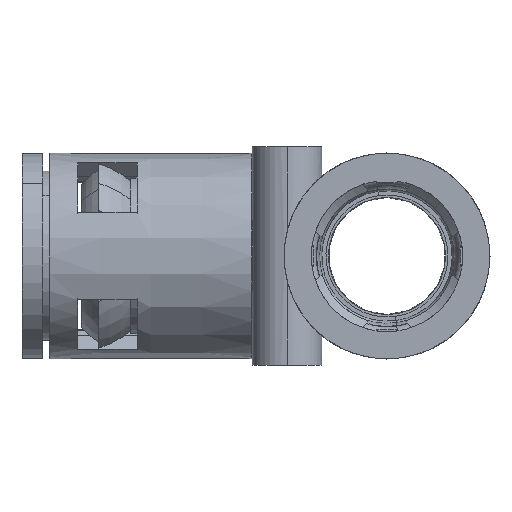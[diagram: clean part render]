
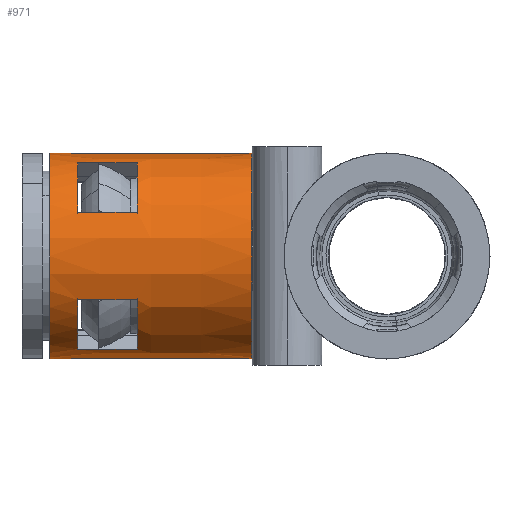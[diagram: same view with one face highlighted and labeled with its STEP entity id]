
A CAD part, left-side view. The second image highlights one B-rep face of the part: STEP entity #971.
In plain terms, the highlighted conical face has half-angle 0.026 degrees and reference radius 14.751 mm.
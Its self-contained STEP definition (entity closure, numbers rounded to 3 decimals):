
#42 = VERTEX_POINT ( 'NONE', #8413 ) ;
#139 = DIRECTION ( 'NONE',  ( 0., 0., 1. ) ) ;
#163 = CARTESIAN_POINT ( 'NONE',  ( -13.355, 38.657, -6.284 ) ) ;
#270 = FACE_BOUND ( 'NONE', #3830, .T. ) ;
#350 = VERTEX_POINT ( 'NONE', #8005 ) ;
#401 = AXIS2_PLACEMENT_3D ( 'NONE', #5531, #695, #6341 ) ;
#466 = CARTESIAN_POINT ( 'NONE',  ( -6.283, 35.824, -13.354 ) ) ;
#538 = EDGE_CURVE ( 'NONE', #350, #2759, #2491, .T. ) ;
#615 = CARTESIAN_POINT ( 'NONE',  ( -13.356, 41.49, -6.285 ) ) ;
#623 = LINE ( 'NONE', #4461, #9001 ) ;
#695 = DIRECTION ( 'NONE',  ( 0., -1., 0. ) ) ;
#820 = CARTESIAN_POINT ( 'NONE',  ( 0., 48.324, -14.764 ) ) ;
#971 = ADVANCED_FACE ( 'NONE', ( #2156, #270, #2406 ), #8137, .T. ) ;
#1041 = AXIS2_PLACEMENT_3D ( 'NONE', #1295, #7910, #6983 ) ;
#1217 = EDGE_CURVE ( 'NONE', #3899, #350, #6233, .T. ) ;
#1295 = CARTESIAN_POINT ( 'NONE',  ( 0., 19.393, 0. ) ) ;
#1344 = AXIS2_PLACEMENT_3D ( 'NONE', #2278, #7958, #3082 ) ;
#1374 = ORIENTED_EDGE ( 'NONE', *, *, #9882, .F. ) ;
#1421 = CARTESIAN_POINT ( 'NONE',  ( 0., 48.324, 14.764 ) ) ;
#1476 = CARTESIAN_POINT ( 'NONE',  ( -13.357, 44.324, 6.286 ) ) ;
#1622 = CARTESIAN_POINT ( 'NONE',  ( -13.357, 44.324, 6.286 ) ) ;
#1827 = CARTESIAN_POINT ( 'NONE',  ( 0., 19.393, 0. ) ) ;
#1838 = VERTEX_POINT ( 'NONE', #10016 ) ;
#1870 = ORIENTED_EDGE ( 'NONE', *, *, #4715, .T. ) ;
#1963 = DIRECTION ( 'NONE',  ( 0., 1., 0. ) ) ;
#2093 = AXIS2_PLACEMENT_3D ( 'NONE', #2124, #7816, #2937 ) ;
#2124 = CARTESIAN_POINT ( 'NONE',  ( 0., 35.824, 0. ) ) ;
#2156 = FACE_OUTER_BOUND ( 'NONE', #6339, .T. ) ;
#2234 = EDGE_CURVE ( 'NONE', #8324, #1838, #7959, .T. ) ;
#2278 = CARTESIAN_POINT ( 'NONE',  ( 0., 44.324, 0. ) ) ;
#2283 = EDGE_CURVE ( 'NONE', #10251, #4035, #623, .T. ) ;
#2294 = VECTOR ( 'NONE', #7677, 1000. ) ;
#2347 = CIRCLE ( 'NONE', #401, 14.764 ) ;
#2349 = DIRECTION ( 'NONE',  ( 0., 1., 0. ) ) ;
#2390 = ORIENTED_EDGE ( 'NONE', *, *, #538, .F. ) ;
#2406 = FACE_BOUND ( 'NONE', #3005, .T. ) ;
#2491 = CIRCLE ( 'NONE', #10324, 14.762 ) ;
#2582 = CARTESIAN_POINT ( 'NONE',  ( -6.286, 44.324, 13.357 ) ) ;
#2629 = DIRECTION ( 'NONE',  ( 0., 0., -1. ) ) ;
#2640 = CARTESIAN_POINT ( 'NONE',  ( -6.283, 35.824, 13.354 ) ) ;
#2759 = VERTEX_POINT ( 'NONE', #9589 ) ;
#2895 = ORIENTED_EDGE ( 'NONE', *, *, #8659, .F. ) ;
#2937 = DIRECTION ( 'NONE',  ( -1., 0., 0. ) ) ;
#3005 = EDGE_LOOP ( 'NONE', ( #5753, #7082, #2390, #6274 ) ) ;
#3082 = DIRECTION ( 'NONE',  ( 1., 0., 0. ) ) ;
#3098 = CARTESIAN_POINT ( 'NONE',  ( -13.354, 35.824, -6.283 ) ) ;
#3196 = CIRCLE ( 'NONE', #6073, 14.751 ) ;
#3247 = CARTESIAN_POINT ( 'NONE',  ( 0., 19.393, -14.751 ) ) ;
#3429 = EDGE_CURVE ( 'NONE', #42, #10251, #3196, .T. ) ;
#3433 = AXIS2_PLACEMENT_3D ( 'NONE', #6814, #1963, #7648 ) ;
#3558 = CARTESIAN_POINT ( 'NONE',  ( -6.285, 41.49, -13.356 ) ) ;
#3830 = EDGE_LOOP ( 'NONE', ( #7664, #6432, #2895, #1374 ) ) ;
#3844 = VERTEX_POINT ( 'NONE', #1421 ) ;
#3899 = VERTEX_POINT ( 'NONE', #3098 ) ;
#4035 = VERTEX_POINT ( 'NONE', #820 ) ;
#4123 = CARTESIAN_POINT ( 'NONE',  ( -6.283, 35.824, 13.354 ) ) ;
#4461 = CARTESIAN_POINT ( 'NONE',  ( 0., 19.393, -14.751 ) ) ;
#4558 = CARTESIAN_POINT ( 'NONE',  ( -13.357, 44.324, -6.286 ) ) ;
#4715 = EDGE_CURVE ( 'NONE', #42, #3844, #9033, .T. ) ;
#4822 = CARTESIAN_POINT ( 'NONE',  ( -13.356, 41.49, 6.285 ) ) ;
#5202 = CARTESIAN_POINT ( 'NONE',  ( -6.286, 44.324, -13.357 ) ) ;
#5235 = CARTESIAN_POINT ( 'NONE',  ( -6.283, 35.824, -13.354 ) ) ;
#5380 = CARTESIAN_POINT ( 'NONE',  ( -6.286, 44.324, 13.357 ) ) ;
#5531 = CARTESIAN_POINT ( 'NONE',  ( 0., 48.324, 0. ) ) ;
#5753 = ORIENTED_EDGE ( 'NONE', *, *, #9460, .F. ) ;
#5910 = B_SPLINE_CURVE_WITH_KNOTS ( 'NONE', 3,
 ( #5202, #3558, #10101, #5235 ),
 .UNSPECIFIED., .F., .F.,
 ( 4, 4 ),
 ( 0., 0.009 ),
 .UNSPECIFIED. ) ;
#6073 = AXIS2_PLACEMENT_3D ( 'NONE', #1827, #7516, #2629 ) ;
#6233 = B_SPLINE_CURVE_WITH_KNOTS ( 'NONE', 3,
 ( #6881, #163, #615, #4558 ),
 .UNSPECIFIED., .F., .F.,
 ( 4, 4 ),
 ( 0., 0.009 ),
 .UNSPECIFIED. ) ;
#6274 = ORIENTED_EDGE ( 'NONE', *, *, #1217, .F. ) ;
#6330 = VERTEX_POINT ( 'NONE', #2640 ) ;
#6339 = EDGE_LOOP ( 'NONE', ( #6726, #7859, #1870, #10182 ) ) ;
#6341 = DIRECTION ( 'NONE',  ( 0., 0., -1. ) ) ;
#6432 = ORIENTED_EDGE ( 'NONE', *, *, #2234, .F. ) ;
#6621 = CARTESIAN_POINT ( 'NONE',  ( -6.284, 38.657, 13.355 ) ) ;
#6726 = ORIENTED_EDGE ( 'NONE', *, *, #2283, .F. ) ;
#6814 = CARTESIAN_POINT ( 'NONE',  ( 0., 35.824, 0. ) ) ;
#6849 = CARTESIAN_POINT ( 'NONE',  ( 0., 19.393, 14.751 ) ) ;
#6881 = CARTESIAN_POINT ( 'NONE',  ( -13.354, 35.824, -6.283 ) ) ;
#6983 = DIRECTION ( 'NONE',  ( 0., 0., 1. ) ) ;
#7082 = ORIENTED_EDGE ( 'NONE', *, *, #7987, .F. ) ;
#7198 = CIRCLE ( 'NONE', #2093, 14.758 ) ;
#7457 = CARTESIAN_POINT ( 'NONE',  ( -6.285, 41.49, 13.356 ) ) ;
#7516 = DIRECTION ( 'NONE',  ( 0., -1., 0. ) ) ;
#7648 = DIRECTION ( 'NONE',  ( 0., 0., -1. ) ) ;
#7664 = ORIENTED_EDGE ( 'NONE', *, *, #10478, .F. ) ;
#7677 = DIRECTION ( 'NONE',  ( 0., 1., 0. ) ) ;
#7702 = B_SPLINE_CURVE_WITH_KNOTS ( 'NONE', 3,
 ( #4123, #6621, #7457, #2582 ),
 .UNSPECIFIED., .F., .F.,
 ( 4, 4 ),
 ( 0., 0.009 ),
 .UNSPECIFIED. ) ;
#7816 = DIRECTION ( 'NONE',  ( 0., 1., 0. ) ) ;
#7859 = ORIENTED_EDGE ( 'NONE', *, *, #3429, .F. ) ;
#7910 = DIRECTION ( 'NONE',  ( 0., 1., 0. ) ) ;
#7958 = DIRECTION ( 'NONE',  ( 0., -1., 0. ) ) ;
#7959 = B_SPLINE_CURVE_WITH_KNOTS ( 'NONE', 3,
 ( #1476, #4822, #10380, #10203 ),
 .UNSPECIFIED., .F., .F.,
 ( 4, 4 ),
 ( 0., 0.009 ),
 .UNSPECIFIED. ) ;
#7987 = EDGE_CURVE ( 'NONE', #2759, #10474, #5910, .T. ) ;
#8005 = CARTESIAN_POINT ( 'NONE',  ( -13.357, 44.324, -6.286 ) ) ;
#8084 = CIRCLE ( 'NONE', #1344, 14.762 ) ;
#8137 = CONICAL_SURFACE ( 'NONE', #1041, 14.751, 0. ) ;
#8324 = VERTEX_POINT ( 'NONE', #1622 ) ;
#8413 = CARTESIAN_POINT ( 'NONE',  ( 0., 19.393, 14.751 ) ) ;
#8456 = CIRCLE ( 'NONE', #3433, 14.758 ) ;
#8659 = EDGE_CURVE ( 'NONE', #10532, #8324, #8084, .T. ) ;
#9001 = VECTOR ( 'NONE', #2349, 1000. ) ;
#9033 = LINE ( 'NONE', #6849, #2294 ) ;
#9239 = EDGE_CURVE ( 'NONE', #3844, #4035, #2347, .T. ) ;
#9460 = EDGE_CURVE ( 'NONE', #10474, #3899, #8456, .T. ) ;
#9589 = CARTESIAN_POINT ( 'NONE',  ( -6.286, 44.324, -13.357 ) ) ;
#9657 = CARTESIAN_POINT ( 'NONE',  ( 0., 44.324, 0. ) ) ;
#9882 = EDGE_CURVE ( 'NONE', #6330, #10532, #7702, .T. ) ;
#10016 = CARTESIAN_POINT ( 'NONE',  ( -13.354, 35.824, 6.283 ) ) ;
#10101 = CARTESIAN_POINT ( 'NONE',  ( -6.284, 38.657, -13.355 ) ) ;
#10182 = ORIENTED_EDGE ( 'NONE', *, *, #9239, .T. ) ;
#10203 = CARTESIAN_POINT ( 'NONE',  ( -13.354, 35.824, 6.283 ) ) ;
#10251 = VERTEX_POINT ( 'NONE', #3247 ) ;
#10324 = AXIS2_PLACEMENT_3D ( 'NONE', #9657, #10453, #139 ) ;
#10380 = CARTESIAN_POINT ( 'NONE',  ( -13.355, 38.657, 6.284 ) ) ;
#10453 = DIRECTION ( 'NONE',  ( 0., -1., 0. ) ) ;
#10474 = VERTEX_POINT ( 'NONE', #466 ) ;
#10478 = EDGE_CURVE ( 'NONE', #1838, #6330, #7198, .T. ) ;
#10532 = VERTEX_POINT ( 'NONE', #5380 ) ;
